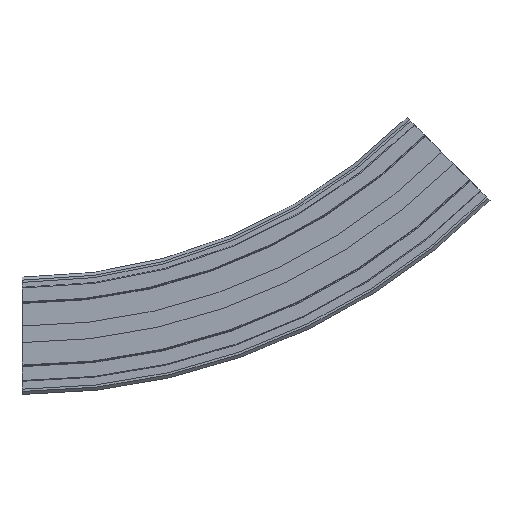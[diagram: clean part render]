
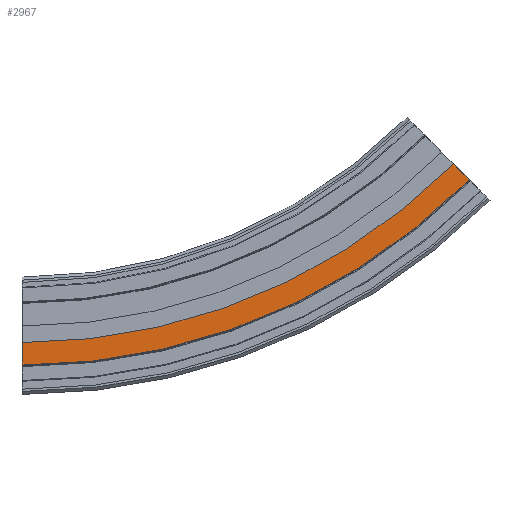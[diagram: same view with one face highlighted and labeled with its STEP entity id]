
A CAD part, front view. The second image highlights one B-rep face of the part: STEP entity #2967.
In plain terms, the highlighted planar face has unit normal (0, -1, 0).
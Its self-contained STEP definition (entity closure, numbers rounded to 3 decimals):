
#2909=CARTESIAN_POINT('',(297.338,-32.,64.662));
#2910=VERTEX_POINT('',#2909);
#2917=CARTESIAN_POINT('',(0.0,-32.,-58.5));
#2918=VERTEX_POINT('',#2917);
#2919=CARTESIAN_POINT('',(0.,-32.,362.0));
#2920=DIRECTION('',(0.0,-1.0,0.0));
#2921=DIRECTION('',(-0.707,0.0,0.707));
#2922=AXIS2_PLACEMENT_3D('',#2919,#2920,#2921);
#2923=CIRCLE('',#2922,420.5);
#2924=EDGE_CURVE('',#2918,#2910,#2923,.T.);
#2936=CARTESIAN_POINT('',(0.0,-32.,-51.));
#2937=DIRECTION('',(0.0,-1.0,0.0));
#2938=DIRECTION('',(0.0,0.0,-1.0));
#2939=AXIS2_PLACEMENT_3D('',#2936,#2937,#2938);
#2940=PLANE('',#2939);
#2941=CARTESIAN_POINT('',(286.732,-32.,75.268));
#2942=VERTEX_POINT('',#2941);
#2943=CARTESIAN_POINT('',(297.338,-32.,64.662));
#2944=DIRECTION('',(-0.707,0.,0.707));
#2945=VECTOR('',#2944,15.);
#2946=LINE('',#2943,#2945);
#2947=EDGE_CURVE('',#2910,#2942,#2946,.T.);
#2948=ORIENTED_EDGE('',*,*,#2947,.T.);
#2949=CARTESIAN_POINT('',(0.0,-32.,-43.5));
#2950=VERTEX_POINT('',#2949);
#2951=CARTESIAN_POINT('',(0.,-32.,362.0));
#2952=DIRECTION('',(0.0,-1.,0.0));
#2953=DIRECTION('',(-0.707,0.0,0.707));
#2954=AXIS2_PLACEMENT_3D('',#2951,#2952,#2953);
#2955=CIRCLE('',#2954,405.5);
#2956=EDGE_CURVE('',#2950,#2942,#2955,.T.);
#2957=ORIENTED_EDGE('',*,*,#2956,.F.);
#2958=CARTESIAN_POINT('',(0.0,-32.,-43.5));
#2959=DIRECTION('',(0.0,0.0,-1.0));
#2960=VECTOR('',#2959,15.);
#2961=LINE('',#2958,#2960);
#2962=EDGE_CURVE('',#2950,#2918,#2961,.T.);
#2963=ORIENTED_EDGE('',*,*,#2962,.T.);
#2964=ORIENTED_EDGE('',*,*,#2924,.T.);
#2965=EDGE_LOOP('',(#2948,#2957,#2963,#2964));
#2966=FACE_OUTER_BOUND('',#2965,.T.);
#2967=ADVANCED_FACE('',(#2966),#2940,.T.);
